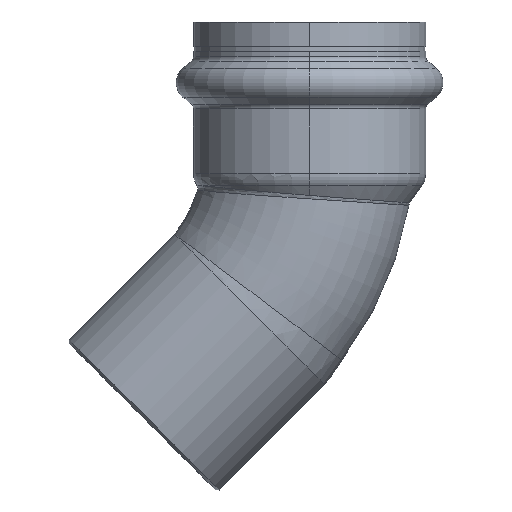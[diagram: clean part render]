
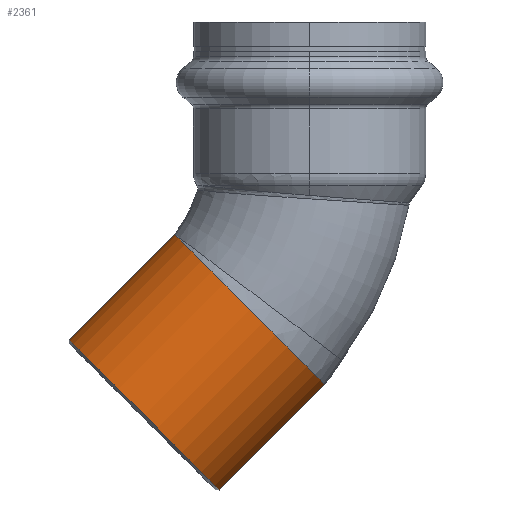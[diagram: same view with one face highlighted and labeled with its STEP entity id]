
A CAD part, left-side view. The second image highlights one B-rep face of the part: STEP entity #2361.
In plain terms, the highlighted cylindrical face has radius 17.5 mm (diameter 35 mm), a partial arc.
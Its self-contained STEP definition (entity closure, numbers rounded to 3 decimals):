
#3 = CARTESIAN_POINT ( 'NONE',  ( 0., 9.899, -9.899 ) ) ;
#28 = DIRECTION ( 'NONE',  ( 0., 0.707, -0.707 ) ) ;
#156 = ORIENTED_EDGE ( 'NONE', *, *, #1770, .F. ) ;
#199 = DIRECTION ( 'NONE',  ( 0., 0.707, 0.707 ) ) ;
#241 = DIRECTION ( 'NONE',  ( 0., -0.707, 0.707 ) ) ;
#269 = CARTESIAN_POINT ( 'NONE',  ( 0., 27.294, -27.294 ) ) ;
#274 = AXIS2_PLACEMENT_3D ( 'NONE', #269, #241, #199 ) ;
#340 = DIRECTION ( 'NONE',  ( 0., 0.707, -0.707 ) ) ;
#364 = LINE ( 'NONE', #1596, #1042 ) ;
#528 = AXIS2_PLACEMENT_3D ( 'NONE', #3, #340, #2524 ) ;
#562 = LINE ( 'NONE', #2447, #2195 ) ;
#586 = VERTEX_POINT ( 'NONE', #1827 ) ;
#717 = ORIENTED_EDGE ( 'NONE', *, *, #2479, .T. ) ;
#824 = VERTEX_POINT ( 'NONE', #1688 ) ;
#1001 = EDGE_LOOP ( 'NONE', ( #156, #1316, #717, #1220 ) ) ;
#1042 = VECTOR ( 'NONE', #28, 1000. ) ;
#1220 = ORIENTED_EDGE ( 'NONE', *, *, #2176, .T. ) ;
#1273 = VERTEX_POINT ( 'NONE', #1369 ) ;
#1316 = ORIENTED_EDGE ( 'NONE', *, *, #2130, .T. ) ;
#1369 = CARTESIAN_POINT ( 'NONE',  ( 0., 22.274, 2.475 ) ) ;
#1582 = CARTESIAN_POINT ( 'NONE',  ( 0., -2.475, -22.274 ) ) ;
#1596 = CARTESIAN_POINT ( 'NONE',  ( 0., 11.997, -36.746 ) ) ;
#1688 = CARTESIAN_POINT ( 'NONE',  ( 0., 14.92, -39.669 ) ) ;
#1770 = EDGE_CURVE ( 'NONE', #1918, #824, #364, .T. ) ;
#1776 = FACE_OUTER_BOUND ( 'NONE', #1001, .T. ) ;
#1827 = CARTESIAN_POINT ( 'NONE',  ( 0., 39.669, -14.92 ) ) ;
#1918 = VERTEX_POINT ( 'NONE', #1582 ) ;
#2130 = EDGE_CURVE ( 'NONE', #1918, #1273, #2322, .T. ) ;
#2176 = EDGE_CURVE ( 'NONE', #586, #824, #2542, .T. ) ;
#2195 = VECTOR ( 'NONE', #2446, 1000. ) ;
#2225 = DIRECTION ( 'NONE',  ( 0., 0.707, 0.707 ) ) ;
#2232 = DIRECTION ( 'NONE',  ( 0., 0.707, -0.707 ) ) ;
#2251 = CARTESIAN_POINT ( 'NONE',  ( 0., 24.371, -24.371 ) ) ;
#2322 = CIRCLE ( 'NONE', #528, 17.5 ) ;
#2361 = ADVANCED_FACE ( 'NONE', ( #1776 ), #2535, .T. ) ;
#2391 = AXIS2_PLACEMENT_3D ( 'NONE', #2251, #2232, #2225 ) ;
#2446 = DIRECTION ( 'NONE',  ( 0., 0.707, -0.707 ) ) ;
#2447 = CARTESIAN_POINT ( 'NONE',  ( 0., 36.746, -11.997 ) ) ;
#2479 = EDGE_CURVE ( 'NONE', #1273, #586, #562, .T. ) ;
#2524 = DIRECTION ( 'NONE',  ( 0., 0.707, 0.707 ) ) ;
#2535 = CYLINDRICAL_SURFACE ( 'NONE', #2391, 17.5 ) ;
#2542 = CIRCLE ( 'NONE', #274, 17.5 ) ;
